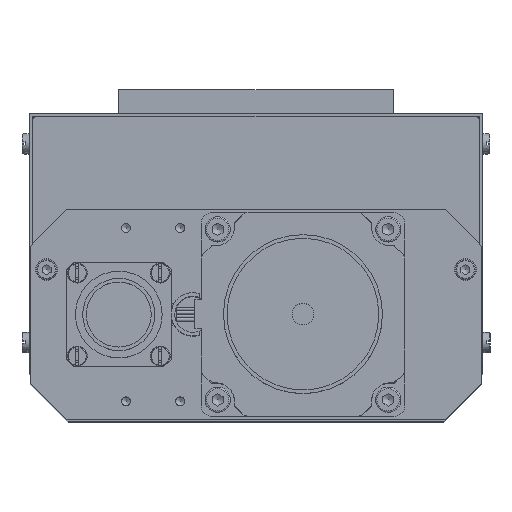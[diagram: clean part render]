
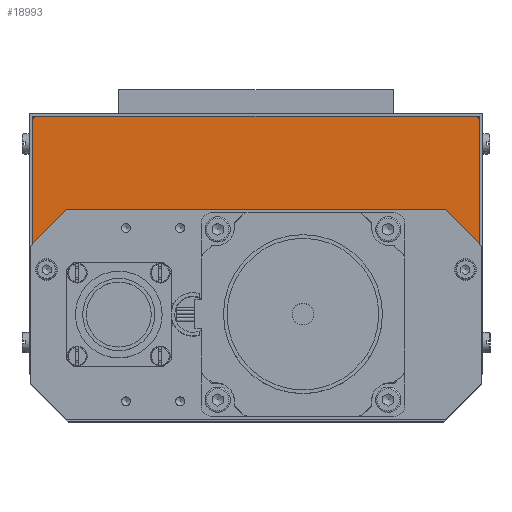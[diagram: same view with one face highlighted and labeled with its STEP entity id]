
A CAD part, top view. The second image highlights one B-rep face of the part: STEP entity #18993.
In plain terms, the highlighted planar face has unit normal (0, 0, 1).
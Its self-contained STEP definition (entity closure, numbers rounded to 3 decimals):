
#12302=CARTESIAN_POINT('',(-71.935,74.777,170.0));
#12303=VERTEX_POINT('',#12302);
#12334=CARTESIAN_POINT('',(52.065,74.777,170.0));
#12335=VERTEX_POINT('',#12334);
#12951=CARTESIAN_POINT('',(42.565,84.277,170.0));
#12952=VERTEX_POINT('',#12951);
#12953=CARTESIAN_POINT('',(42.565,84.277,170.0));
#12954=DIRECTION('',(0.707,-0.707,0.0));
#12955=VECTOR('',#12954,13.435);
#12956=LINE('',#12953,#12955);
#12957=EDGE_CURVE('',#12952,#12335,#12956,.T.);
#12974=CARTESIAN_POINT('',(-62.435,84.277,170.0));
#12975=VERTEX_POINT('',#12974);
#12976=CARTESIAN_POINT('',(-62.435,84.277,170.0));
#12977=DIRECTION('',(1.0,0.0,0.0));
#12978=VECTOR('',#12977,105.0);
#12979=LINE('',#12976,#12978);
#12980=EDGE_CURVE('',#12975,#12952,#12979,.T.);
#13011=CARTESIAN_POINT('',(-71.935,74.777,170.0));
#13012=DIRECTION('',(0.707,0.707,0.0));
#13013=VECTOR('',#13012,13.435);
#13014=LINE('',#13011,#13013);
#13015=EDGE_CURVE('',#12303,#12975,#13014,.T.);
#13918=CARTESIAN_POINT('',(52.065,109.277,170.0));
#13919=VERTEX_POINT('',#13918);
#13926=CARTESIAN_POINT('',(52.065,109.277,170.0));
#13927=DIRECTION('',(0.0,-1.0,0.0));
#13928=VECTOR('',#13927,34.5);
#13929=LINE('',#13926,#13928);
#13930=EDGE_CURVE('',#13919,#12335,#13929,.T.);
#13973=CARTESIAN_POINT('',(-71.935,109.277,170.0));
#13974=VERTEX_POINT('',#13973);
#13975=CARTESIAN_POINT('',(-71.935,74.777,170.0));
#13976=DIRECTION('',(0.0,1.0,0.0));
#13977=VECTOR('',#13976,34.5);
#13978=LINE('',#13975,#13977);
#13979=EDGE_CURVE('',#12303,#13974,#13978,.T.);
#18844=CARTESIAN_POINT('',(51.065,110.277,170.0));
#18845=VERTEX_POINT('',#18844);
#18846=CARTESIAN_POINT('',(51.065,110.277,170.0));
#18847=DIRECTION('',(0.707,-0.707,0.0));
#18848=VECTOR('',#18847,1.414);
#18849=LINE('',#18846,#18848);
#18850=EDGE_CURVE('',#18845,#13919,#18849,.T.);
#18871=CARTESIAN_POINT('',(-70.935,110.277,170.0));
#18872=VERTEX_POINT('',#18871);
#18879=CARTESIAN_POINT('',(-70.935,110.277,170.0));
#18880=DIRECTION('',(1.0,0.0,0.0));
#18881=VECTOR('',#18880,122.0);
#18882=LINE('',#18879,#18881);
#18883=EDGE_CURVE('',#18872,#18845,#18882,.T.);
#18894=CARTESIAN_POINT('',(-71.935,109.277,170.0));
#18895=DIRECTION('',(0.707,0.707,0.0));
#18896=VECTOR('',#18895,1.414);
#18897=LINE('',#18894,#18896);
#18898=EDGE_CURVE('',#13974,#18872,#18897,.T.);
#18978=CARTESIAN_POINT('',(-9.935,68.104,170.0));
#18979=DIRECTION('',(0.0,0.0,1.0));
#18980=DIRECTION('',(1.0,0.0,0.0));
#18981=AXIS2_PLACEMENT_3D('',#18978,#18979,#18980);
#18982=PLANE('',#18981);
#18983=ORIENTED_EDGE('',*,*,#12957,.T.);
#18984=ORIENTED_EDGE('',*,*,#13930,.F.);
#18985=ORIENTED_EDGE('',*,*,#18850,.F.);
#18986=ORIENTED_EDGE('',*,*,#18883,.F.);
#18987=ORIENTED_EDGE('',*,*,#18898,.F.);
#18988=ORIENTED_EDGE('',*,*,#13979,.F.);
#18989=ORIENTED_EDGE('',*,*,#13015,.T.);
#18990=ORIENTED_EDGE('',*,*,#12980,.T.);
#18991=EDGE_LOOP('',(#18983,#18984,#18985,#18986,#18987,#18988,#18989,#18990));
#18992=FACE_OUTER_BOUND('',#18991,.T.);
#18993=ADVANCED_FACE('',(#18992),#18982,.T.);
